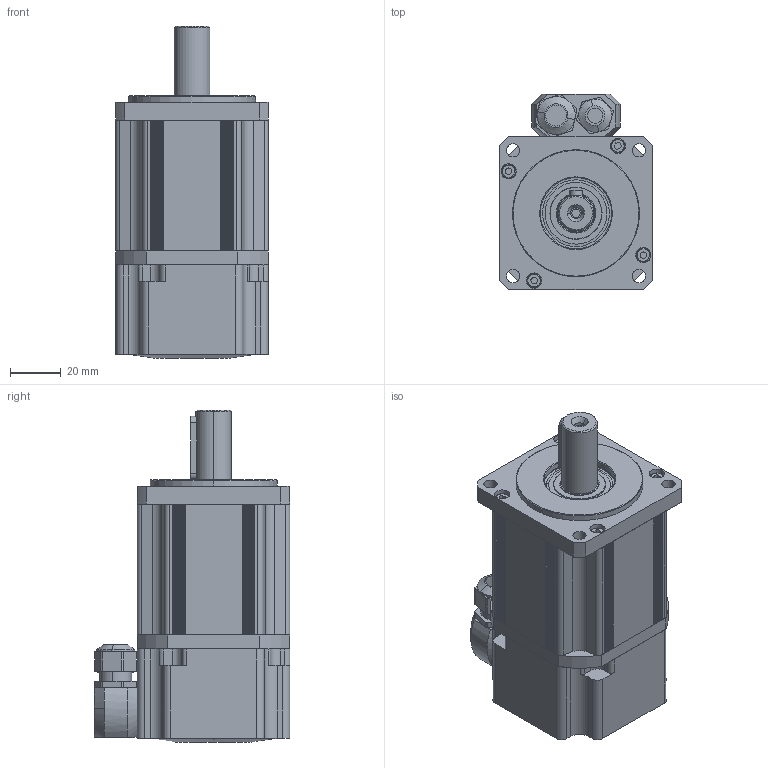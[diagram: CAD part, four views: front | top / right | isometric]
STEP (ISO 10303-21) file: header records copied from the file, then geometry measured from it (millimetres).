
FILE_DESCRIPTION (( 'STEP AP203' ), '1' );
FILE_NAME ('MKBM60_SF-M.STEP', '2016-12-21T16:07:01', ( 'Tecnico motori' ), ( '' ), 'SwSTEP 2.0', 'SolidWorks 2010', '' );
FILE_SCHEMA (( 'CONFIG_CONTROL_DESIGN' ));
Length unit declared in the file: millimetre
Products named in the file (1): MKBM60_SF-M
Bounding box: 60 x 77 x 130.6 mm (x, y, z)
Surface area: 41614.5 mm2 (no closed solid volume)
Topology: 0 solids, 24 shells, 554 faces, 1604 edges, 1083 vertices
Faces by surface type: plane 363, cylinder 129, cone 34, torus 24, bspline 4
Entity records: 18627 total; most frequent: CARTESIAN_POINT 4120, DIRECTION 3113, ORIENTED_EDGE 2526, EDGE_CURVE 1604, LINE 1121, VECTOR 1121, VERTEX_POINT 1083, AXIS2_PLACEMENT_3D 996
